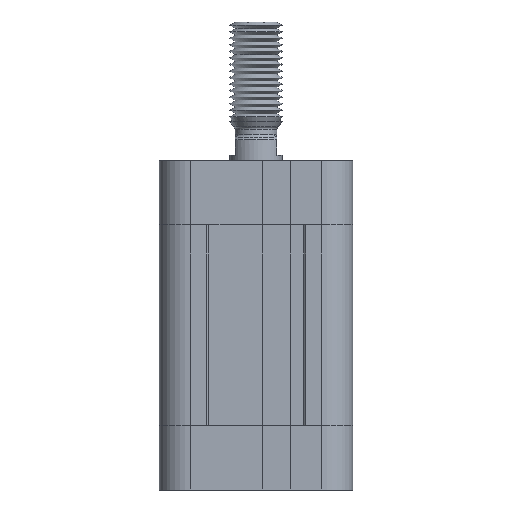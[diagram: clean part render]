
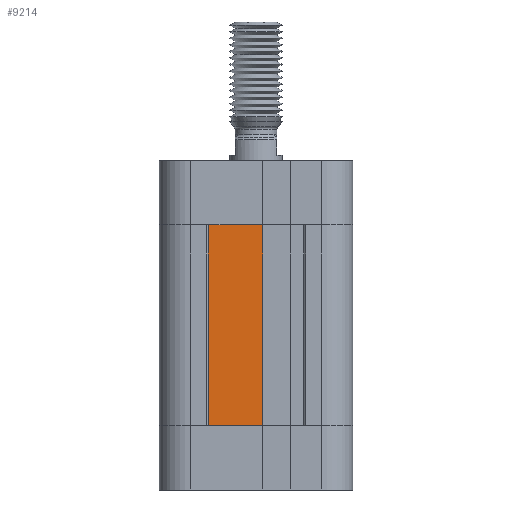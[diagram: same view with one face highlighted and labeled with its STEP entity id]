
A CAD part, front view. The second image highlights one B-rep face of the part: STEP entity #9214.
In plain terms, the highlighted planar face has unit normal (0, -1, 0).
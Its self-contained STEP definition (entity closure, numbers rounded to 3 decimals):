
#8877 = VERTEX_POINT ( 'NONE', #15897 ) ;
#8879 = EDGE_CURVE ( 'NONE', #8877, #8880, #15896, .T. ) ;
#8880 = VERTEX_POINT ( 'NONE', #15892 ) ;
#9078 = EDGE_CURVE ( 'NONE', #9079, #9167, #16247, .T. ) ;
#9079 = VERTEX_POINT ( 'NONE', #16243 ) ;
#9167 = VERTEX_POINT ( 'NONE', #16408 ) ;
#9211 = EDGE_CURVE ( 'NONE', #8877, #9079, #16470, .T. ) ;
#9214 = ADVANCED_FACE ( 'NONE', ( #16463 ), #16461, .F. ) ;
#9215 = EDGE_LOOP ( 'NONE', ( #9216, #9217, #9272, #9273 ) ) ;
#9216 = ORIENTED_EDGE ( 'NONE', *, *, #9078, .T. ) ;
#9217 = ORIENTED_EDGE ( 'NONE', *, *, #9271, .F. ) ;
#9271 = EDGE_CURVE ( 'NONE', #8880, #9167, #16573, .T. ) ;
#9272 = ORIENTED_EDGE ( 'NONE', *, *, #8879, .F. ) ;
#9273 = ORIENTED_EDGE ( 'NONE', *, *, #9211, .T. ) ;
#15892 = CARTESIAN_POINT ( 'NONE',  ( 9.1, -18.1, 38.4 ) ) ;
#15893 = DIRECTION ( 'NONE',  ( 1., 0., 0. ) ) ;
#15894 = VECTOR ( 'NONE', #15893, 1000. ) ;
#15895 = CARTESIAN_POINT ( 'NONE',  ( -1.25, -18.1, 38.4 ) ) ;
#15896 = LINE ( 'NONE', #15895, #15894 ) ;
#15897 = CARTESIAN_POINT ( 'NONE',  ( -1.25, -18.1, 38.4 ) ) ;
#16243 = CARTESIAN_POINT ( 'NONE',  ( -1.25, -18.1, 0. ) ) ;
#16244 = DIRECTION ( 'NONE',  ( 1., 0., 0. ) ) ;
#16245 = VECTOR ( 'NONE', #16244, 1000. ) ;
#16246 = CARTESIAN_POINT ( 'NONE',  ( -1.25, -18.1, 0. ) ) ;
#16247 = LINE ( 'NONE', #16246, #16245 ) ;
#16408 = CARTESIAN_POINT ( 'NONE',  ( 9.1, -18.1, 0. ) ) ;
#16457 = DIRECTION ( 'NONE',  ( -1., 0., 0. ) ) ;
#16458 = DIRECTION ( 'NONE',  ( 0., 1., 0. ) ) ;
#16459 = CARTESIAN_POINT ( 'NONE',  ( -1.25, -18.1, 38.4 ) ) ;
#16460 = AXIS2_PLACEMENT_3D ( 'NONE', #16459, #16458, #16457 ) ;
#16461 = PLANE ( 'NONE',  #16460 ) ;
#16463 = FACE_OUTER_BOUND ( 'NONE', #9215, .T. ) ;
#16464 = DIRECTION ( 'NONE',  ( 0., 0., -1. ) ) ;
#16465 = VECTOR ( 'NONE', #16464, 1000. ) ;
#16466 = CARTESIAN_POINT ( 'NONE',  ( -1.25, -18.1, 38.4 ) ) ;
#16470 = LINE ( 'NONE', #16466, #16465 ) ;
#16570 = DIRECTION ( 'NONE',  ( 0., 0., -1. ) ) ;
#16571 = VECTOR ( 'NONE', #16570, 1000. ) ;
#16572 = CARTESIAN_POINT ( 'NONE',  ( 9.1, -18.1, 38.4 ) ) ;
#16573 = LINE ( 'NONE', #16572, #16571 ) ;
